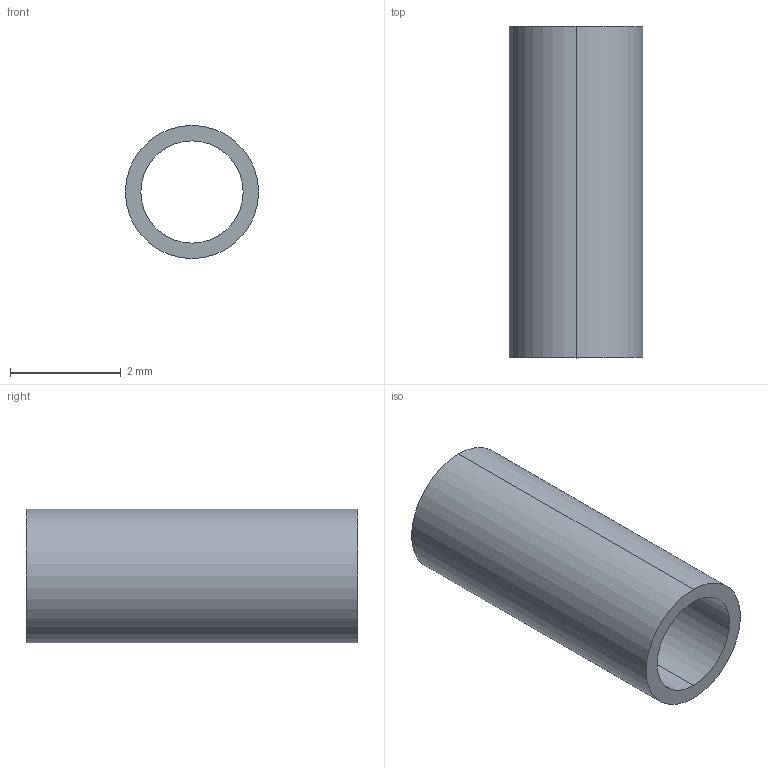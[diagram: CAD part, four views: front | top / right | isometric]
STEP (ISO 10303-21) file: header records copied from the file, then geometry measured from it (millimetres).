
FILE_DESCRIPTION(/* description */ ('(C) Elphel, Inc. 2013. Licensed under CERN OHL v.1.1 or later, see http://ohwr.org/cernohl'),/* implementation_level */ '2;1');
FILE_NAME(/* name */ '0353-23-13.stp',/* time_stamp */ '2013-04-05T16:17:00-06:00',/* author */ (''),/* organization */ ('Elphel, Inc'),/* preprocessor_version */ 'ST-DEVELOPER v14',/* originating_system */ 'VariCAD 2013-1.03; kernel version (20121105)',/* authorisation */ '');
FILE_SCHEMA (('CONFIG_CONTROL_DESIGN'));
Length unit declared in the file: millimetre
Products named in the file (2): 0353-23-13
Assembly tree (1 placements, depth 2):
  0353-23-13
    0353-23-13
Bounding box: 2.41 x 6 x 2.41 mm (x, y, z)
Volume: 11.2 mm3; surface area: 84 mm2
Topology: 1 solids, 1 shells, 6 faces, 12 edges, 8 vertices
Faces by surface type: cylinder 4, plane 2
Entity records: 268 total; most frequent: DIRECTION 40, CARTESIAN_POINT 30, ORIENTED_EDGE 24, AXIS2_PLACEMENT_3D 18, EDGE_CURVE 12, EDGE_LOOP 8, CIRCLE 8, VERTEX_POINT 8
